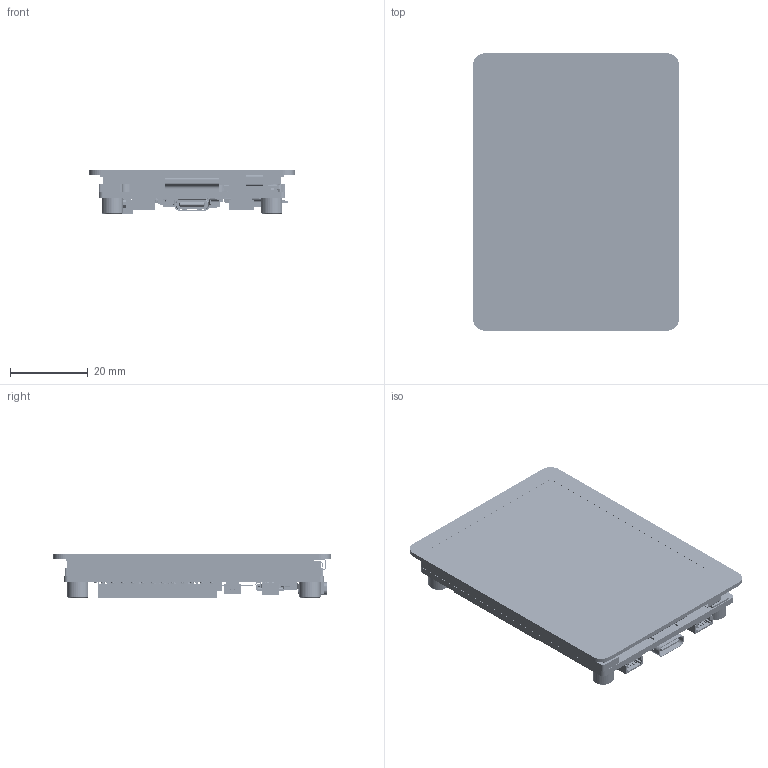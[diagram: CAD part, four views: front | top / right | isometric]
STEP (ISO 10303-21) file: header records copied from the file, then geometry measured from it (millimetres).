
FILE_DESCRIPTION((''),'2;1');
FILE_NAME('ESP32-S3-TOUCH-LCD-2_8B_ASM','2024-10-31T11:58:19',('xiaojisheng'),(''),'CREO PARAMETRIC BY PTC INC, 2021063','CREO PARAMETRIC BY PTC INC, 2021063','');
FILE_SCHEMA(('CONFIG_CONTROL_DESIGN','SHAPE_APPEARANCE_LAYERS_GROUPS'));
Products named in the file (265): BV-LCM28022A-N_TP; BV-LCM28022A-N; BOARD; SOT-23; Q3_ASM; 2_A; 300; _10001; C_0201-1099_AF1_ASM_ASM; C_0201-4408_AF1_ASM_ASM; 3D_MODEL_ASM; C1_ASM; C2_ASM; 2_1_200; _1_1_20001; 3_1_2_A; C_0603-683_AF0_ASM_ASM; C_0603-7177_AF0_ASM_ASM; C_0603_ASM; C3_ASM; _1_10001; 3_1_A; 2_100; C_0402-672_AF0_ASM_ASM; C_0402-4045_AF0_ASM_ASM; C_0402_ASM; C4_ASM; C5_ASM; C6_ASM; C7_ASM; C8_ASM; C9_ASM; C10_ASM; C11_ASM; C12_ASM; C13_ASM; C14_ASM; C15_ASM; C16_ASM; C17_ASM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
Assembly tree (384 placements, depth 9):
  ESP32-S3-TOUCH-LCD-2_8B_ASM
    BV-LCM28022A-N_TP
    BV-LCM28022A-N
    ESP32-S3-TOUCH-LCD-2_8B_PCBA_ASM
      ESP32-S3-T_LCD-2_8B-PCBA241029_ASM
        PCB_ASM
          BOARD
          Q3_ASM
            SOT-23
          C1_ASM
            3D_MODEL_ASM
              C_0201-4408_AF1_ASM_ASM
                C_0201-1099_AF1_ASM_ASM
                  2_A
                  300
                  _10001
          C2_ASM
            3D_MODEL_ASM
              C_0201-4408_AF1_ASM_ASM
                C_0201-1099_AF1_ASM_ASM
                  2_A
                  300
                  _10001
          C3_ASM
            C_0603_ASM
              C_0603-7177_AF0_ASM_ASM
                C_0603-683_AF0_ASM_ASM
                  2_1_200
                  _1_1_20001
                  3_1_2_A
          C4_ASM
            C_0402_ASM
              C_0402-4045_AF0_ASM_ASM
                C_0402-672_AF0_ASM_ASM
                  _1_10001
                  3_1_A
                  2_100
          C5_ASM
            3D_MODEL_ASM
              C_0201-4408_AF1_ASM_ASM
                C_0201-1099_AF1_ASM_ASM
                  2_A
                  300
                  _10001
          C6_ASM
            3D_MODEL_ASM
              C_0201-4408_AF1_ASM_ASM
                C_0201-1099_AF1_ASM_ASM
                  2_A
                  300
                  _10001
          C7_ASM
            C_0402_ASM
              C_0402-4045_AF0_ASM_ASM
                C_0402-672_AF0_ASM_ASM
                  _1_10001
                  3_1_A
                  2_100
          C8_ASM
            C_0402_ASM
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Bounding box: 52.9 x 71.3 x 11.1 mm (x, y, z)
Volume: 21738.7 mm3; surface area: 33921.5 mm2
Topology: 473 solids, 496 shells, 25604 faces, 67244 edges, 43999 vertices
Faces by surface type: plane 18167, extrusion 4217, cylinder 2704, sphere 334, cone 106, bspline 52, torus 24
Entity records: 363479 total; most frequent: CARTESIAN_POINT 78639, ORIENTED_EDGE 46350, DIRECTION 42499, EDGE_CURVE 23194, PRESENTATION_STYLE_ASSIGNMENT 19614, STYLED_ITEM 18733, VECTOR 18637, CURVE_STYLE 18377
